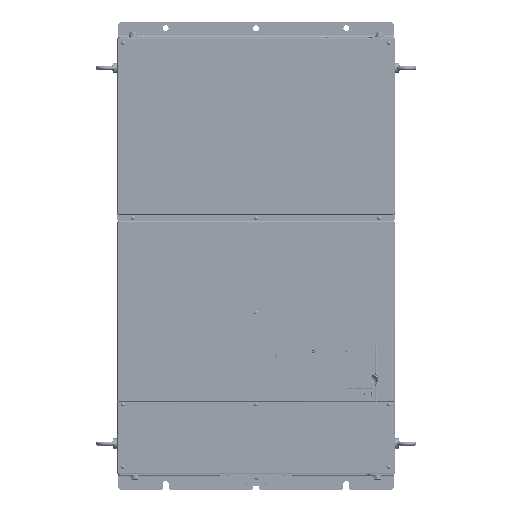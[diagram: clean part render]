
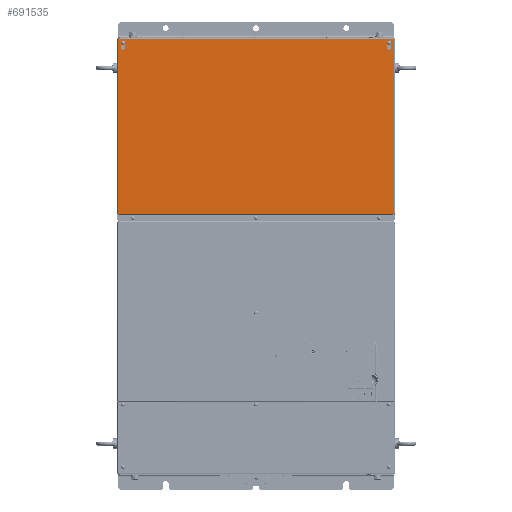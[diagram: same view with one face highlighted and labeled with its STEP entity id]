
A CAD part, top view. The second image highlights one B-rep face of the part: STEP entity #691535.
In plain terms, the highlighted planar face has unit normal (0, 0, 1).
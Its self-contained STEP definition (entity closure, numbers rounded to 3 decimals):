
#201096=CARTESIAN_POINT('',(-336.395,529.895,370.));
#201097=DIRECTION('',(0.,0.,1.));
#201098=DIRECTION('',(0.448,-0.894,0.));
#201099=AXIS2_PLACEMENT_3D('',#201096,#201097,#201098);
#201101=CARTESIAN_POINT('',(336.395,529.895,370.));
#201102=DIRECTION('',(0.,0.,1.));
#201103=DIRECTION('',(-0.894,-0.448,0.));
#201104=AXIS2_PLACEMENT_3D('',#201101,#201102,#201103);
#201106=CARTESIAN_POINT('',(336.395,101.105,370.));
#201107=DIRECTION('',(0.,0.,1.));
#201108=DIRECTION('',(-0.448,0.894,0.));
#201109=AXIS2_PLACEMENT_3D('',#201106,#201107,#201108);
#201111=CARTESIAN_POINT('',(-336.395,101.105,370.));
#201112=DIRECTION('',(0.,0.,1.));
#201113=DIRECTION('',(0.894,0.448,0.));
#201114=AXIS2_PLACEMENT_3D('',#201111,#201112,#201113);
#201116=CARTESIAN_POINT('',(-324.,519.,370.));
#201117=DIRECTION('',(0.,0.,-1.));
#201118=DIRECTION('',(0.,1.,0.));
#201119=AXIS2_PLACEMENT_3D('',#201116,#201117,#201118);
#201121=CARTESIAN_POINT('',(-324.,519.,370.));
#201122=DIRECTION('',(0.,0.,-1.));
#201123=DIRECTION('',(-0.638,-0.77,0.));
#201124=AXIS2_PLACEMENT_3D('',#201121,#201122,#201123);
#201126=DIRECTION('',(0.,-1.,0.));
#201127=VECTOR('',#201126,2.186);
#201128=CARTESIAN_POINT('',(-327.,515.382,370.));
#201129=LINE('',#201128,#201127);
#201130=CARTESIAN_POINT('',(-324.,508.,370.));
#201131=DIRECTION('',(0.,0.,1.));
#201132=DIRECTION('',(-0.5,0.866,0.));
#201133=AXIS2_PLACEMENT_3D('',#201130,#201131,#201132);
#201135=DIRECTION('',(0.,1.,0.));
#201136=VECTOR('',#201135,2.186);
#201137=CARTESIAN_POINT('',(-321.,513.196,370.));
#201138=LINE('',#201137,#201136);
#201139=CARTESIAN_POINT('',(324.,519.,370.));
#201140=DIRECTION('',(0.,0.,-1.));
#201141=DIRECTION('',(0.,1.,0.));
#201142=AXIS2_PLACEMENT_3D('',#201139,#201140,#201141);
#201144=CARTESIAN_POINT('',(324.,519.,370.));
#201145=DIRECTION('',(0.,0.,-1.));
#201146=DIRECTION('',(-0.638,-0.77,0.));
#201147=AXIS2_PLACEMENT_3D('',#201144,#201145,#201146);
#201149=DIRECTION('',(0.,-1.,0.));
#201150=VECTOR('',#201149,2.186);
#201151=CARTESIAN_POINT('',(321.,515.382,370.));
#201152=LINE('',#201151,#201150);
#201153=CARTESIAN_POINT('',(324.,508.,370.));
#201154=DIRECTION('',(0.,0.,1.));
#201155=DIRECTION('',(-0.5,0.866,0.));
#201156=AXIS2_PLACEMENT_3D('',#201153,#201154,#201155);
#201158=DIRECTION('',(0.,1.,0.));
#201159=VECTOR('',#201158,2.186);
#201160=CARTESIAN_POINT('',(327.,513.196,370.));
#201161=LINE('',#201160,#201159);
#201305=DIRECTION('',(0.,1.,0.));
#201306=VECTOR('',#201305,425.213);
#201307=CARTESIAN_POINT('',(-335.5,102.893,370.));
#201308=LINE('',#201307,#201306);
#202166=DIRECTION('',(-1.,0.,0.));
#202167=VECTOR('',#202166,669.213);
#202168=CARTESIAN_POINT('',(334.607,102.,370.));
#202169=LINE('',#202168,#202167);
#202383=DIRECTION('',(0.,-1.,0.));
#202384=VECTOR('',#202383,425.213);
#202385=CARTESIAN_POINT('',(335.5,528.107,370.));
#202386=LINE('',#202385,#202384);
#202656=DIRECTION('',(1.,0.,0.));
#202657=VECTOR('',#202656,669.213);
#202658=CARTESIAN_POINT('',(-334.607,529.,370.));
#202659=LINE('',#202658,#202657);
#361767=CARTESIAN_POINT('',(-327.,513.196,370.));
#361768=CARTESIAN_POINT('',(-321.,513.196,370.));
#361769=VERTEX_POINT('',#361767);
#361770=VERTEX_POINT('',#361768);
#361779=CARTESIAN_POINT('',(321.,513.196,370.));
#361780=CARTESIAN_POINT('',(327.,513.196,370.));
#361781=VERTEX_POINT('',#361779);
#361782=VERTEX_POINT('',#361780);
#361907=CARTESIAN_POINT('',(-335.5,528.107,370.));
#361908=CARTESIAN_POINT('',(-334.607,529.,370.));
#361909=VERTEX_POINT('',#361907);
#361910=VERTEX_POINT('',#361908);
#361911=CARTESIAN_POINT('',(334.607,529.,370.));
#361912=CARTESIAN_POINT('',(335.5,528.107,370.));
#361913=VERTEX_POINT('',#361911);
#361914=VERTEX_POINT('',#361912);
#361915=CARTESIAN_POINT('',(335.5,102.893,370.));
#361916=CARTESIAN_POINT('',(334.607,102.,370.));
#361917=VERTEX_POINT('',#361915);
#361918=VERTEX_POINT('',#361916);
#361919=CARTESIAN_POINT('',(-334.607,102.,370.));
#361920=CARTESIAN_POINT('',(-335.5,102.893,370.));
#361921=VERTEX_POINT('',#361919);
#361922=VERTEX_POINT('',#361920);
#362111=CARTESIAN_POINT('',(-324.,523.7,370.));
#362112=CARTESIAN_POINT('',(-321.,515.382,370.));
#362113=VERTEX_POINT('',#362111);
#362114=VERTEX_POINT('',#362112);
#362115=CARTESIAN_POINT('',(-327.,515.382,370.));
#362116=VERTEX_POINT('',#362115);
#362145=CARTESIAN_POINT('',(324.,523.7,370.));
#362146=CARTESIAN_POINT('',(327.,515.382,370.));
#362147=VERTEX_POINT('',#362145);
#362148=VERTEX_POINT('',#362146);
#362149=CARTESIAN_POINT('',(321.,515.382,370.));
#362150=VERTEX_POINT('',#362149);
#691490=CARTESIAN_POINT('',(0.,315.5,370.));
#691491=DIRECTION('',(0.,0.,-1.));
#691492=DIRECTION('',(-1.,0.,0.));
#691493=AXIS2_PLACEMENT_3D('',#691490,#691491,#691492);
#691494=PLANE('',#691493);
#691496=ORIENTED_EDGE('',*,*,#691495,.T.);
#691498=ORIENTED_EDGE('',*,*,#691497,.T.);
#691500=ORIENTED_EDGE('',*,*,#691499,.T.);
#691502=ORIENTED_EDGE('',*,*,#691501,.T.);
#691504=ORIENTED_EDGE('',*,*,#691503,.T.);
#691506=ORIENTED_EDGE('',*,*,#691505,.T.);
#691508=ORIENTED_EDGE('',*,*,#691507,.T.);
#691510=ORIENTED_EDGE('',*,*,#691509,.T.);
#691511=EDGE_LOOP('',(#691496,#691498,#691500,#691502,#691504,#691506,#691508,
#691510));
#691512=FACE_OUTER_BOUND('',#691511,.F.);
#691514=ORIENTED_EDGE('',*,*,#691513,.F.);
#691516=ORIENTED_EDGE('',*,*,#691515,.F.);
#691518=ORIENTED_EDGE('',*,*,#691517,.T.);
#691520=ORIENTED_EDGE('',*,*,#691519,.T.);
#691522=ORIENTED_EDGE('',*,*,#691521,.T.);
#691523=EDGE_LOOP('',(#691514,#691516,#691518,#691520,#691522));
#691524=FACE_BOUND('',#691523,.F.);
#691526=ORIENTED_EDGE('',*,*,#691525,.F.);
#691528=ORIENTED_EDGE('',*,*,#691527,.F.);
#691529=ORIENTED_EDGE('',*,*,#691434,.T.);
#691531=ORIENTED_EDGE('',*,*,#691530,.T.);
#691532=ORIENTED_EDGE('',*,*,#691473,.T.);
#691533=EDGE_LOOP('',(#691526,#691528,#691529,#691531,#691532));
#691534=FACE_BOUND('',#691533,.F.);
#691535=ADVANCED_FACE('',(#691512,#691524,#691534),#691494,.F.);
#201100=CIRCLE('',#201099,2.);
#201105=CIRCLE('',#201104,2.);
#201110=CIRCLE('',#201109,2.);
#201115=CIRCLE('',#201114,2.);
#201120=CIRCLE('',#201119,4.7);
#201125=CIRCLE('',#201124,4.7);
#201134=CIRCLE('',#201133,6.);
#201143=CIRCLE('',#201142,4.7);
#201148=CIRCLE('',#201147,4.7);
#201157=CIRCLE('',#201156,6.);
#691434=EDGE_CURVE('',#362150,#361781,#201152,.T.);
#691473=EDGE_CURVE('',#361782,#362148,#201161,.T.);
#691495=EDGE_CURVE('',#361909,#361910,#201100,.T.);
#691497=EDGE_CURVE('',#361910,#361913,#202659,.T.);
#691499=EDGE_CURVE('',#361913,#361914,#201105,.T.);
#691501=EDGE_CURVE('',#361914,#361917,#202386,.T.);
#691503=EDGE_CURVE('',#361917,#361918,#201110,.T.);
#691505=EDGE_CURVE('',#361918,#361921,#202169,.T.);
#691507=EDGE_CURVE('',#361921,#361922,#201115,.T.);
#691509=EDGE_CURVE('',#361922,#361909,#201308,.T.);
#691513=EDGE_CURVE('',#362113,#362114,#201120,.T.);
#691515=EDGE_CURVE('',#362116,#362113,#201125,.T.);
#691517=EDGE_CURVE('',#362116,#361769,#201129,.T.);
#691519=EDGE_CURVE('',#361769,#361770,#201134,.T.);
#691521=EDGE_CURVE('',#361770,#362114,#201138,.T.);
#691525=EDGE_CURVE('',#362147,#362148,#201143,.T.);
#691527=EDGE_CURVE('',#362150,#362147,#201148,.T.);
#691530=EDGE_CURVE('',#361781,#361782,#201157,.T.);
